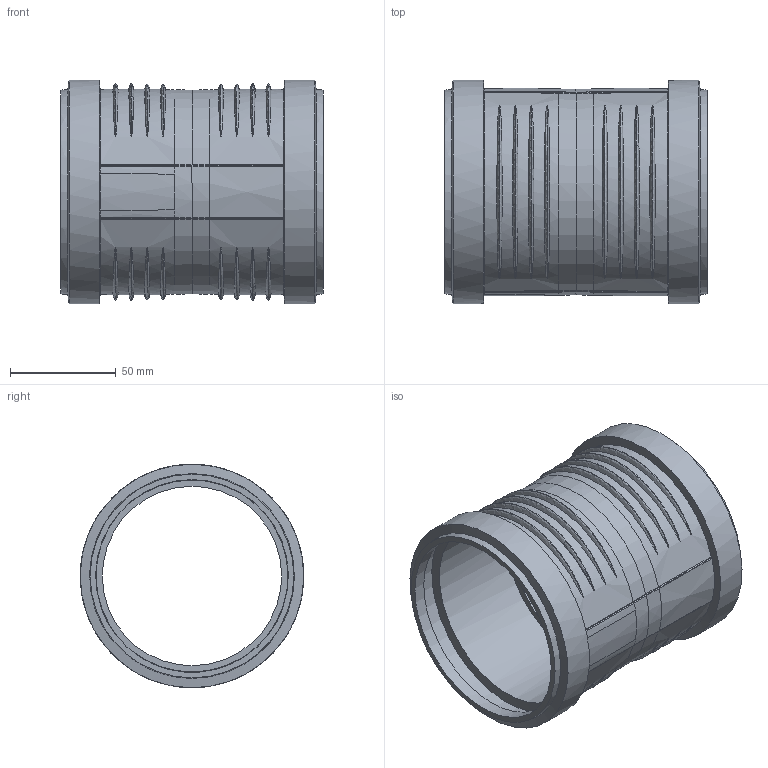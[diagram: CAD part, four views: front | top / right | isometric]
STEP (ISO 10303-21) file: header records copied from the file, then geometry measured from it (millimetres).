
FILE_DESCRIPTION(/* description */ (''),/* implementation_level */ '2;1');
FILE_NAME(/* name */ 'C:\Planerdaten\Export PLA\390.416.14.1\stp\390416.stp',/* time_stamp */ '2022-03-31T11:55:36+02:00',/* author */ ('JANAN'),/* organization */ (''),/* preprocessor_version */ 'ST-DEVELOPER v16.13',/* originating_system */ 'Autodesk Inventor 2018',/* authorisation */ '');
FILE_SCHEMA (('AUTOMOTIVE_DESIGN { 1 0 10303 214 3 1 1 }'));
Length unit declared in the file: millimetre
Products named in the file (1): tmp325B.tmp
Bounding box: 124.4 x 105.8 x 105.77 mm (x, y, z)
Volume: 135263.9 mm3; surface area: 91394.2 mm2
Topology: 1 solids, 1 shells, 123 faces, 273 edges, 170 vertices
Faces by surface type: bspline 102, cylinder 9, cone 8, plane 4
Full cylindrical faces by diameter (mm): 84.9 x1, 90.9 x2, 91.2 x2, 100.2 x2, 105.8 x2
Entity records: 13681 total; most frequent: CARTESIAN_POINT 11258, ORIENTED_EDGE 504, DIRECTION 378, EDGE_CURVE 252, AXIS2_PLACEMENT_3D 179, VERTEX_POINT 166, EDGE_LOOP 160, STYLED_ITEM 124
